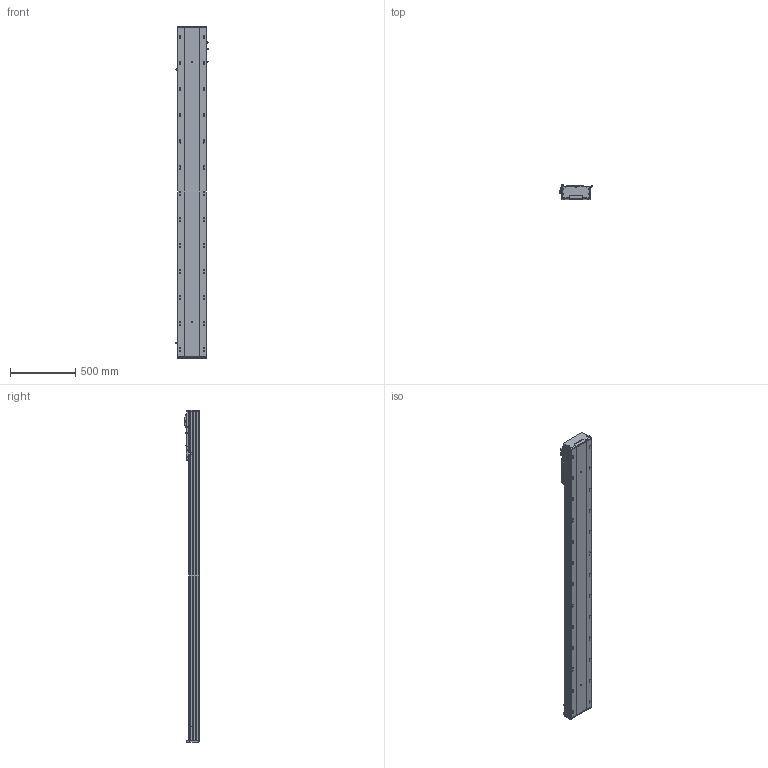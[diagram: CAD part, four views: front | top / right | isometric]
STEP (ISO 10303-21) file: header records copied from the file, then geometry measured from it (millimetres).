
FILE_DESCRIPTION (( 'STEP AP203' ), '1' );
FILE_NAME ('BEH22-A-M2-2100-L1-¦Õ22-PCD100-M6-C3.STEP', '2022-06-21T05:53:51', ( 'CXY' ), ( 'BT' ), 'SwSTEP 2.0', 'SolidWorks 2016', '' );
FILE_SCHEMA (( 'CONFIG_CONTROL_DESIGN' ));
Products named in the file (12): PM-T65; BEH22-07-PCD100-80-M6; FS-25-6.66-M2-H22K6; BEH22-04-01_L; _G-M6; FS-01-10（10毫米）; BEH22-B-01-XX-2; BEH22-A-M2-2100-L1-耳22-PCD100-M6-C3; BTH22-07-DZ; 萇儂階踡輸; BEH22-04-F; FS-02-BTH22
Assembly tree (18 placements, depth 3):
  BEH22-A-M2-2100-L1-耳22-PCD100-M6-C3
    BEH22-B-01-XX-2
    BTH22-07-DZ  x2
    PM-T65  x2
    BEH22-04-01_L
      BEH22-04-F
      萇儂階踡輸
      _G-M6  x3
      FS-02-BTH22
      FS-01-10（10毫米）  x4
      BEH22-07-PCD100-80-M6
      FS-25-6.66-M2-H22K6
Bounding box: 247.7 x 111 x 2548 mm (x, y, z)
Volume: 26988448 mm3; surface area: 2686661.7 mm2
Topology: 21 solids, 21 shells, 2166 faces, 6214 edges, 4022 vertices
Faces by surface type: cylinder 1048, plane 826, cone 233, bspline 37, torus 22
Entity records: 457894 total; most frequent: CARTESIAN_POINT 410711, ORIENTED_EDGE 10248, DIRECTION 8892, EDGE_CURVE 5124, VERTEX_POINT 3382, AXIS2_PLACEMENT_3D 3250, LINE 2392, VECTOR 2392
